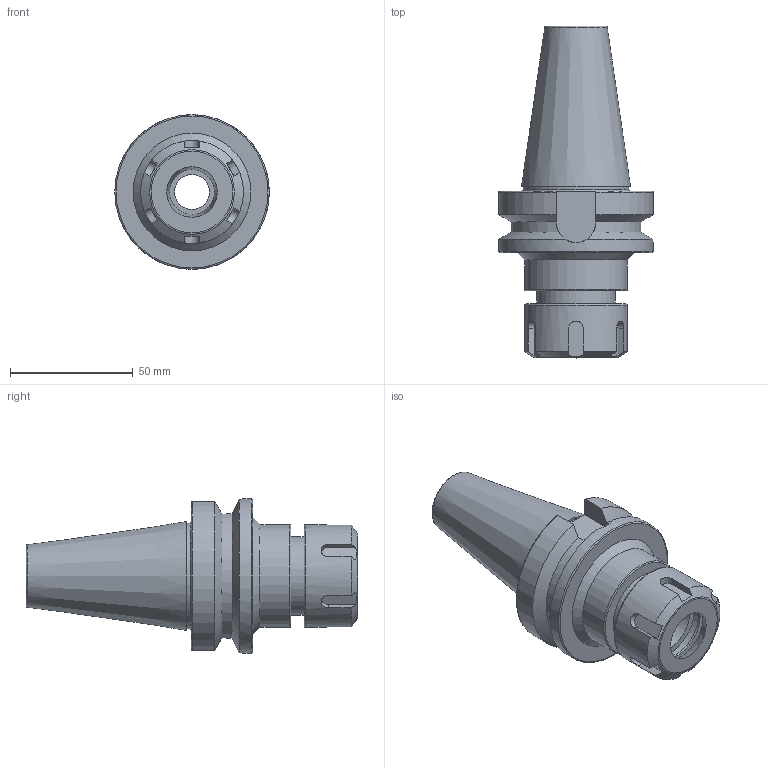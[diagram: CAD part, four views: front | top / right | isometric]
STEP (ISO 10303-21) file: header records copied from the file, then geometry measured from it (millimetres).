
FILE_DESCRIPTION(/* description */ (''),/* implementation_level */ '2;1');
FILE_NAME(/* name */ 'BT40-ER25-70.stp',/* time_stamp */ '2025-09-25T16:43:38+03:00',/* author */ ('User'),/* organization */ (''),/* preprocessor_version */ 'ST-DEVELOPER v19.2',/* originating_system */ 'Autodesk Inventor 2024',/* authorisation */ '');
FILE_SCHEMA (('AUTOMOTIVE_DESIGN { 1 0 10303 214 3 1 1 }'));
Length unit declared in the file: millimetre
Products named in the file (3): BT40-ER25-100; BT40-FMB60-75; ER25-M
Assembly tree (2 placements, depth 2):
  BT40-ER25-100
    BT40-FMB60-75
    ER25-M
Bounding box: 63 x 135.4 x 63 mm (x, y, z)
Volume: 154714.6 mm3; surface area: 35540.2 mm2
Topology: 2 solids, 2 shells, 80 faces, 207 edges, 140 vertices
Faces by surface type: plane 37, cylinder 23, cone 12, torus 8
Full cylindrical faces by diameter (mm): 14.2 x1, 17 x1, 18.254 x1, 25.6 x1, 30.6 x2, 32 x1, 42 x2, 43 x1, 63 x1
Entity records: 2745 total; most frequent: CARTESIAN_POINT 682, ORIENTED_EDGE 414, DIRECTION 405, EDGE_CURVE 207, AXIS2_PLACEMENT_3D 164, VERTEX_POINT 140, EDGE_LOOP 93, FACE_OUTER_BOUND 80
